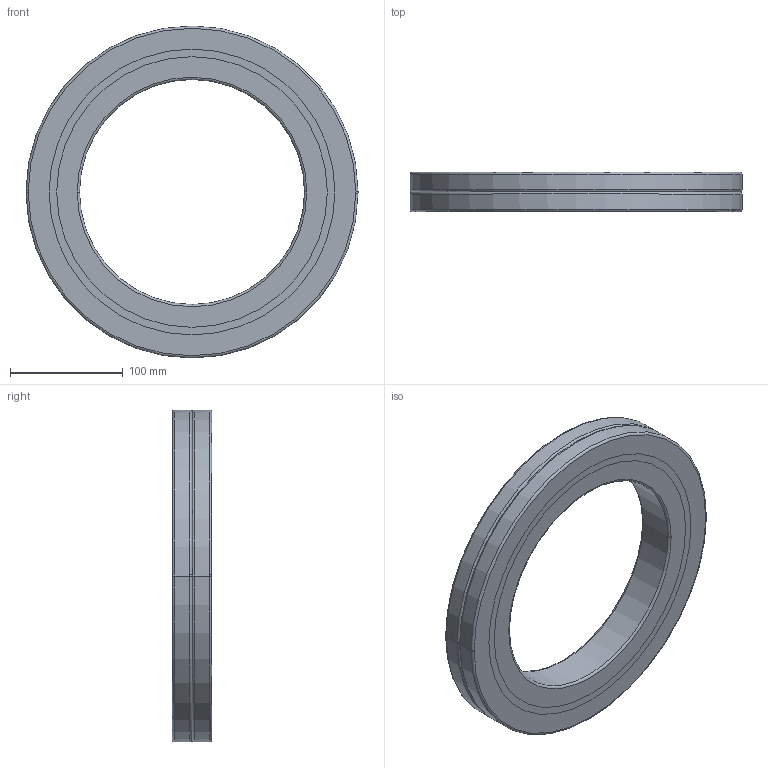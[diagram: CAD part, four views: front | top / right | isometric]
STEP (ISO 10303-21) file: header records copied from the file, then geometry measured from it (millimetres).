
FILE_DESCRIPTION(('no description'),'unknown implementation level');
FILE_NAME('CRBA20035_41.stp',' ',('HIWIN GmbH'),('CADClick - KiM GmbH - www.kimweb.de'),'unknown preprocess','ACIS','unknown authorization');
FILE_SCHEMA(('automotive_design'));
Length unit declared in the file: millimetre
Products named in the file (5): CRBA20035_1; CRBA20035_2; CRBA20035_3; CRBA20035_4; CRBA20035
Bounding box: 295 x 35 x 295 mm (x, y, z)
Volume: 1129984.4 mm3; surface area: 232077.3 mm2
Topology: 5 solids, 5 shells, 54 faces, 120 edges, 76 vertices
Faces by surface type: torus 24, cylinder 20, plane 10
Entity records: 3096 total; most frequent: DIRECTION 338, STYLED_ITEM 255, PRESENTATION_STYLE_ASSIGNMENT 255, CARTESIAN_POINT 255, COLOUR_RGB 255, ORIENTED_EDGE 240, AXIS2_PLACEMENT_3D 159, EDGE_CURVE 120
